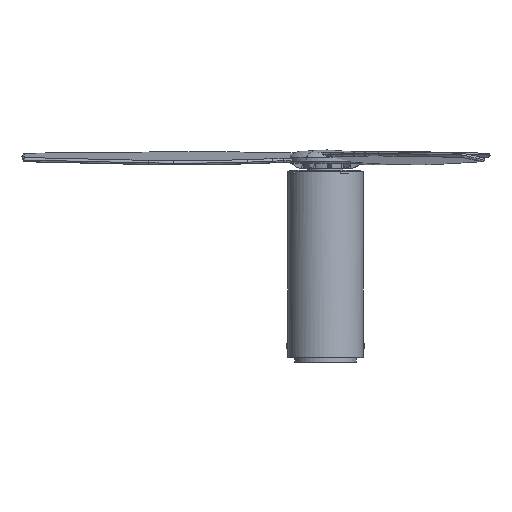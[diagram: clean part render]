
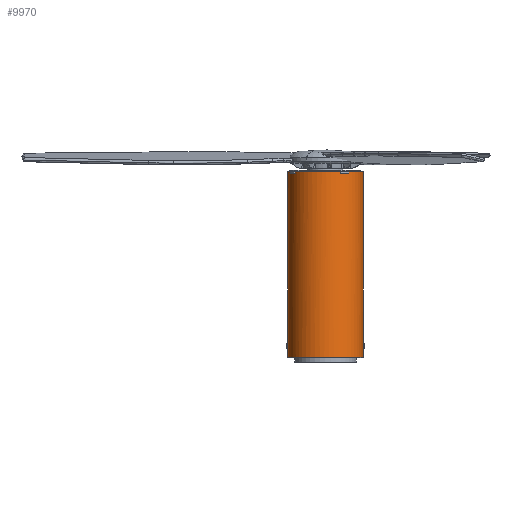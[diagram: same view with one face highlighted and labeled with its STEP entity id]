
A CAD part, left-side view. The second image highlights one B-rep face of the part: STEP entity #9970.
In plain terms, the highlighted cylindrical face has radius 80 mm (diameter 159.999 mm), a partial arc.
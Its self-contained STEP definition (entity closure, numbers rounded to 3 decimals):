
#1020=FACE_OUTER_BOUND('',#1682,.T.);
#1682=EDGE_LOOP('',(#8534,#8535,#8536,#8537));
#2252=B_SPLINE_CURVE_WITH_KNOTS('',3,(#20437,#20438,#20439,#20440,#20441,
#20442,#20443,#20444,#20445,#20446,#20447),.UNSPECIFIED.,.F.,.F.,(4,1,1,
1,1,1,1,1,4),(0.,0.125,0.25,0.375,0.5,0.625,0.75,0.875,1.),
 .UNSPECIFIED.);
#2299=B_SPLINE_CURVE_WITH_KNOTS('',3,(#21046,#21047,#21048,#21049,#21050,
#21051,#21052,#21053,#21054,#21055,#21056),.UNSPECIFIED.,.F.,.F.,(4,1,1,
1,1,1,1,1,4),(0.,0.125,0.25,0.375,0.5,0.625,0.75,0.875,1.),
 .UNSPECIFIED.);
#3247=LINE('',#21058,#3729);
#3248=LINE('',#21059,#3730);
#3729=VECTOR('',#12773,304.8);
#3730=VECTOR('',#12774,304.8);
#4505=VERTEX_POINT('',#20290);
#4506=VERTEX_POINT('',#20291);
#4551=VERTEX_POINT('',#20928);
#4552=VERTEX_POINT('',#20981);
#5860=EDGE_CURVE('',#4506,#4505,#2252,.T.);
#5913=EDGE_CURVE('',#4551,#4552,#2299,.T.);
#5914=EDGE_CURVE('',#4505,#4551,#3247,.T.);
#5915=EDGE_CURVE('',#4552,#4506,#3248,.T.);
#8534=ORIENTED_EDGE('',*,*,#5913,.T.);
#8535=ORIENTED_EDGE('',*,*,#5915,.T.);
#8536=ORIENTED_EDGE('',*,*,#5860,.T.);
#8537=ORIENTED_EDGE('',*,*,#5914,.T.);
#9483=CYLINDRICAL_SURFACE('',#10828,80.);
#9970=ADVANCED_FACE('',(#1020),#9483,.T.);
#10828=AXIS2_PLACEMENT_3D('',#21060,#12775,#12776);
#12773=DIRECTION('',(0.,0.,1.));
#12774=DIRECTION('',(0.,0.,-1.));
#12775=DIRECTION('center_axis',(0.,0.,1.));
#12776=DIRECTION('ref_axis',(0.,1.,0.));
#20290=CARTESIAN_POINT('',(0.,-80.,10.169));
#20291=CARTESIAN_POINT('',(0.,80.,10.169));
#20437=CARTESIAN_POINT('Ctrl Pts',(0.,80.,10.169));
#20438=CARTESIAN_POINT('Ctrl Pts',(-10.514,80.105,10.169));
#20439=CARTESIAN_POINT('Ctrl Pts',(-31.391,75.785,10.169));
#20440=CARTESIAN_POINT('Ctrl Pts',(-58.046,58.054,10.169));
#20441=CARTESIAN_POINT('Ctrl Pts',(-75.833,31.408,10.169));
#20442=CARTESIAN_POINT('Ctrl Pts',(-82.083,0.,
10.169));
#20443=CARTESIAN_POINT('Ctrl Pts',(-75.833,-31.408,
10.169));
#20444=CARTESIAN_POINT('Ctrl Pts',(-58.046,-58.054,
10.169));
#20445=CARTESIAN_POINT('Ctrl Pts',(-31.391,-75.785,
10.169));
#20446=CARTESIAN_POINT('Ctrl Pts',(-10.514,-80.105,10.169));
#20447=CARTESIAN_POINT('Ctrl Pts',(0.,-80.,
10.169));
#20928=CARTESIAN_POINT('',(0.,-80.,404.09));
#20981=CARTESIAN_POINT('',(0.,80.,404.09));
#21046=CARTESIAN_POINT('Ctrl Pts',(0.,-80.,
404.09));
#21047=CARTESIAN_POINT('Ctrl Pts',(-10.514,-80.105,
404.09));
#21048=CARTESIAN_POINT('Ctrl Pts',(-31.391,-75.785,
404.09));
#21049=CARTESIAN_POINT('Ctrl Pts',(-58.046,-58.054,
404.09));
#21050=CARTESIAN_POINT('Ctrl Pts',(-75.833,-31.408,
404.09));
#21051=CARTESIAN_POINT('Ctrl Pts',(-82.083,0.,
404.09));
#21052=CARTESIAN_POINT('Ctrl Pts',(-75.833,31.408,404.09));
#21053=CARTESIAN_POINT('Ctrl Pts',(-58.046,58.054,404.09));
#21054=CARTESIAN_POINT('Ctrl Pts',(-31.391,75.785,404.09));
#21055=CARTESIAN_POINT('Ctrl Pts',(-10.514,80.105,404.09));
#21056=CARTESIAN_POINT('Ctrl Pts',(0.,80.,
404.09));
#21058=CARTESIAN_POINT('',(0.,-80.,10.169));
#21059=CARTESIAN_POINT('',(0.,80.,404.09));
#21060=CARTESIAN_POINT('Origin',(0.,0.,1792.792));
